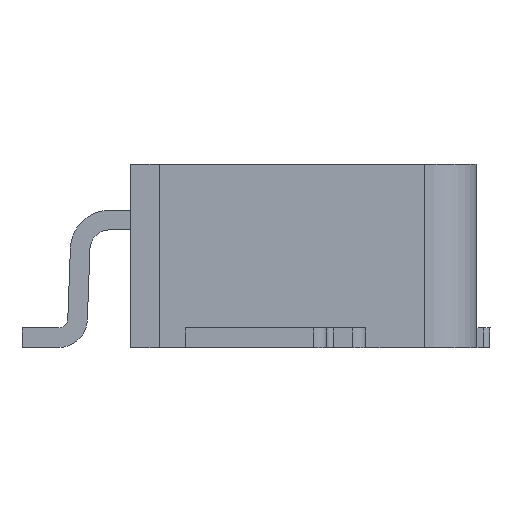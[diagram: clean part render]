
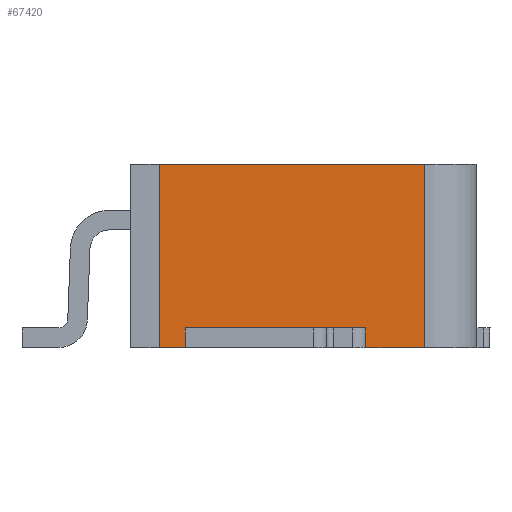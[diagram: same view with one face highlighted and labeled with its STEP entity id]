
A CAD part, left-side view. The second image highlights one B-rep face of the part: STEP entity #67420.
In plain terms, the highlighted planar face has unit normal (-1, 0, 0) as drawn and (1, 0, 0) by its records, which use the part's own axes.
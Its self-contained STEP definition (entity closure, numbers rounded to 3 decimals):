
#32470=CARTESIAN_POINT('',(248.919,-48.486,1.4));
#32480=VERTEX_POINT('',#32470);
#32510=CARTESIAN_POINT('',(248.919,-50.516,1.4));
#32520=DIRECTION('',(0.,1.,0.));
#32530=VECTOR('',#32520,1.);
#32540=LINE('',#32510,#32530);
#32550=CARTESIAN_POINT('',(248.919,-50.516,1.4));
#32560=VERTEX_POINT('',#32550);
#32570=EDGE_CURVE('',#32560,#32480,#32540,.T.);
#48880=CARTESIAN_POINT('',(248.919,-50.516,
0.));
#48890=VERTEX_POINT('',#48880);
#48920=CARTESIAN_POINT('',(248.919,-50.316,0.));
#48930=DIRECTION('',(0.,-1.,0.));
#48940=VECTOR('',#48930,1.);
#48950=LINE('',#48920,#48940);
#48960=CARTESIAN_POINT('',(248.919,-50.316,
0.));
#48970=VERTEX_POINT('',#48960);
#48980=EDGE_CURVE('',#48970,#48890,#48950,.T.);
#49630=CARTESIAN_POINT('',(248.919,-48.936,
0.));
#49640=VERTEX_POINT('',#49630);
#49670=CARTESIAN_POINT('',(248.919,-48.486,0.));
#49680=DIRECTION('',(0.,-1.,0.));
#49690=VECTOR('',#49680,1.);
#49700=LINE('',#49670,#49690);
#49710=CARTESIAN_POINT('',(248.919,-48.486,
0.));
#49720=VERTEX_POINT('',#49710);
#49730=EDGE_CURVE('',#49720,#49640,#49700,.T.);
#66910=CARTESIAN_POINT('',(248.919,-48.486,1.4));
#66920=DIRECTION('',(0.,0.,-1.));
#66930=VECTOR('',#66920,1.);
#66940=LINE('',#66910,#66930);
#66950=EDGE_CURVE('',#32480,#49720,#66940,.T.);
#67030=CARTESIAN_POINT('',(248.919,-48.483,1.403));
#67040=DIRECTION('',(1.,0.,0.));
#67050=DIRECTION('',(0.,-1.,0.));
#67060=AXIS2_PLACEMENT_3D('',#67030,#67040,#67050);
#67070=PLANE('',#67060);
#67080=CARTESIAN_POINT('',(248.919,-50.516,0.));
#67090=DIRECTION('',(0.,0.,1.));
#67100=VECTOR('',#67090,1.);
#67110=LINE('',#67080,#67100);
#67120=EDGE_CURVE('',#48890,#32560,#67110,.T.);
#67130=ORIENTED_EDGE('',*,*,#67120,.F.);
#67140=ORIENTED_EDGE('',*,*,#32570,.F.);
#67150=ORIENTED_EDGE('',*,*,#66950,.F.);
#67160=ORIENTED_EDGE('',*,*,#49730,.F.);
#67170=CARTESIAN_POINT('',(248.919,-48.936,0.15));
#67180=DIRECTION('',(0.,0.,-1.));
#67190=VECTOR('',#67180,1.);
#67200=LINE('',#67170,#67190);
#67210=CARTESIAN_POINT('',(248.919,-48.936,0.15));
#67220=VERTEX_POINT('',#67210);
#67230=EDGE_CURVE('',#67220,#49640,#67200,.T.);
#67240=ORIENTED_EDGE('',*,*,#67230,.T.);
#67250=CARTESIAN_POINT('',(248.919,-50.316,0.15));
#67260=DIRECTION('',(0.,1.,0.));
#67270=VECTOR('',#67260,1.);
#67280=LINE('',#67250,#67270);
#67290=CARTESIAN_POINT('',(248.919,-50.316,0.15));
#67300=VERTEX_POINT('',#67290);
#67310=EDGE_CURVE('',#67300,#67220,#67280,.T.);
#67320=ORIENTED_EDGE('',*,*,#67310,.T.);
#67330=CARTESIAN_POINT('',(248.919,-50.316,0.));
#67340=DIRECTION('',(0.,0.,1.));
#67350=VECTOR('',#67340,1.);
#67360=LINE('',#67330,#67350);
#67370=EDGE_CURVE('',#48970,#67300,#67360,.T.);
#67380=ORIENTED_EDGE('',*,*,#67370,.T.);
#67390=ORIENTED_EDGE('',*,*,#48980,.F.);
#67400=EDGE_LOOP('',(#67390,#67380,#67320,#67240,#67160,#67150,#67140,
#67130));
#67410=FACE_OUTER_BOUND('',#67400,.T.);
#67420=ADVANCED_FACE('',(#67410),#67070,.T.);
